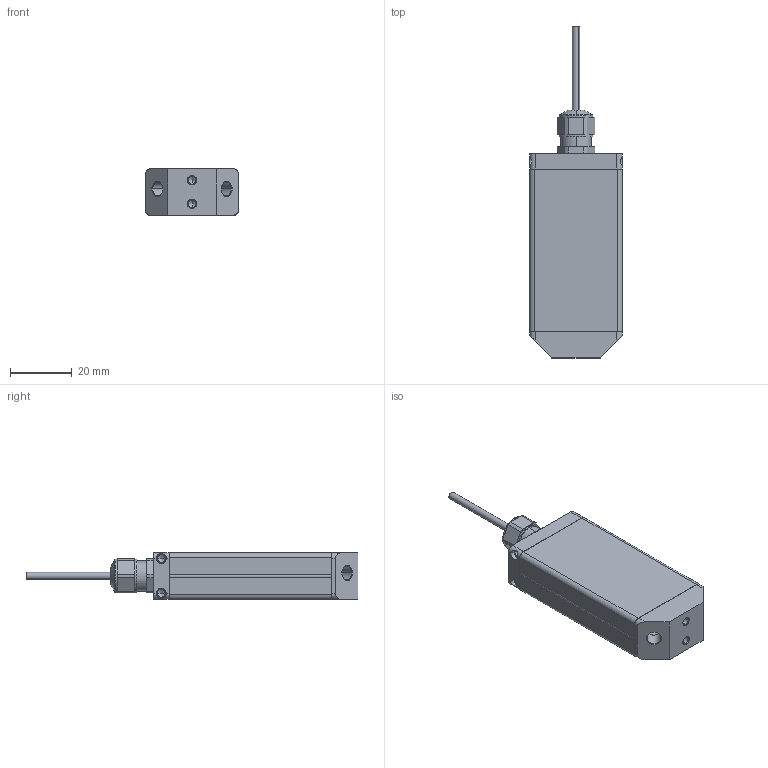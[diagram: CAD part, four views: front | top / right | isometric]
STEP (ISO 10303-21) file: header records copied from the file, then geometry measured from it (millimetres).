
FILE_DESCRIPTION (( 'STEP AP214' ), '1' );
FILE_NAME ('DML02.STEP', '2021-08-24T14:24:10', ( '' ), ( '' ), 'SwSTEP 2.0', 'SolidWorks 2021', '' );
FILE_SCHEMA (( 'AUTOMOTIVE_DESIGN' ));
Length unit declared in the file: millimetre
Products named in the file (12): m3_dichtungsscheibe; 183000.M.20.010.1 Zugblech; DML02; Manifold; BN 610 1233122 hexagon socket head cap screw M3x10; Rücken; 323339_silizium; Kabel; 323339_pyrex; DLO-M2_Gehäuseprofil_C; Kabeldurchführung; BN 616 8227381 hex socket flat countersunk head screw M3x5
Assembly tree (14 placements, depth 2):
  DML02
    Manifold
    323339_pyrex
    323339_silizium
    Kabeldurchführung
    m3_dichtungsscheibe  x2
    Rücken
    BN 610 1233122 hexagon socket head cap screw M3x10  x2
    BN 616 8227381 hex socket flat countersunk head screw M3x5  x2
    183000.M.20.010.1 Zugblech
    DLO-M2_Gehäuseprofil_C
    Kabel
Bounding box: 30.27 x 107.19 x 15.06 mm (x, y, z)
Volume: 6849.5 mm3; surface area: 20554.5 mm2
Topology: 15 solids, 29 shells, 607 faces, 1478 edges, 926 vertices
Faces by surface type: plane 273, cylinder 198, cone 106, torus 16, bspline 14
Entity records: 18884 total; most frequent: CARTESIAN_POINT 3993, DIRECTION 2786, ORIENTED_EDGE 2556, EDGE_CURVE 1300, AXIS2_PLACEMENT_3D 1020, VERTEX_POINT 838, VECTOR 746, LINE 746
